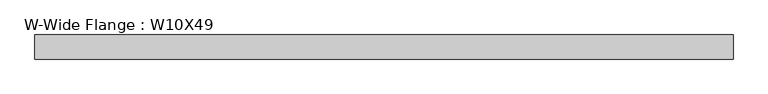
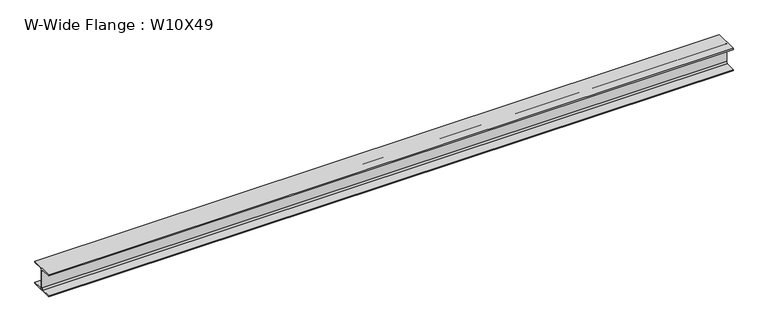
"""IFC4 building model written with IfcOpenShell, lengths in millimetres: beam geometry, W-Wide Flange : W10X49."""

from ifc_helpers import new_model, si_unit, point, frame, frame_2d, origin, place, context, project, spatial, polyline, circle_curve, trimmed, segment, composite_curve, outline, extrude, source, transform, mapped, element, save


def w_wide_flange_w10x49_96518129(model_context):
    return source(origin(), model_context, "Body", "SweptSolid", [
        extrude(outline(composite_curve([segment(polyline([(127.0, -112.776), (127.0, -127.0), (-127.0, -127.0), (-127.0, -112.776), (-21.844, -112.776)]), True, "CONTINUOUS"), segment(trimmed(circle_curve(frame_2d((-21.844, -95.25)), 17.526), [point((-21.844, -112.776))], [point((-4.318, -95.25))], True, "CARTESIAN"), True, "CONTINUOUS"), segment(polyline([(-4.318, -95.25), (-4.318, 95.25)]), True, "CONTINUOUS"), segment(trimmed(circle_curve(frame_2d((-21.844, 95.25)), 17.526), [point((-4.318, 95.25))], [point((-21.844, 112.776))], True, "CARTESIAN"), True, "CONTINUOUS"), segment(polyline([(-21.844, 112.776), (-127.0, 112.776), (-127.0, 127.0), (127.0, 127.0), (127.0, 112.776), (21.844, 112.776)]), True, "CONTINUOUS"), segment(trimmed(circle_curve(frame_2d((21.844, 95.25)), 17.526), [point((21.844, 112.776))], [point((4.318, 95.25))], True, "CARTESIAN"), True, "CONTINUOUS"), segment(polyline([(4.318, 95.25), (4.318, -95.25)]), True, "CONTINUOUS"), segment(trimmed(circle_curve(frame_2d((21.844, -95.25)), 17.526), [point((4.318, -95.25))], [point((21.844, -112.776))], True, "CARTESIAN"), True, "CONTINUOUS"), segment(polyline([(21.844, -112.776), (127.0, -112.776)]), True, "CONTINUOUS")], self_intersect=False)), frame((-3648.0253906, 0.0, 0.0), z_axis=(1.0, 0.0, 0.0), x_axis=(0.0, 1.0, 0.0)), (0.0, 0.0, 1.0), 7358.7570312),
    ])


if __name__ == "__main__":
    model = new_model("IFC4")
    model_context = context("Model", 3, world=origin())
    ifc_project = project(units=[si_unit("LENGTHUNIT", "METRE", prefix="MILLI")], contexts=[model_context])
    site = spatial("IfcSite", under=ifc_project)
    building = spatial("IfcBuilding", under=site)
    placement = place(None, origin())
    w_wide_flange_w10x49_shape = w_wide_flange_w10x49_96518129(model_context)
    element("IfcBeam", 1, ObjectType="W-Wide Flange : W10X49", at=placement, inside=building, context=model_context, shape_type="MappedRepresentation", body=[
        mapped(w_wide_flange_w10x49_shape, transform((0.0, 0.0, 0.0), x_axis=(1.0, 0.0, 0.0), y_axis=(0.0, 1.0, 0.0), z_axis=(0.0, 0.0, 1.0))),
    ])
    save(model, "model.ifc")
